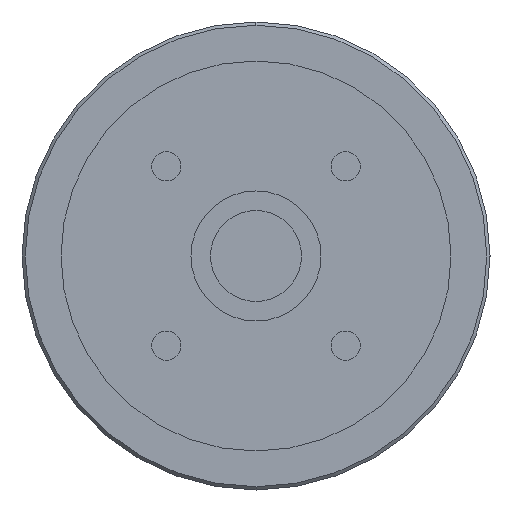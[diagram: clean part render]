
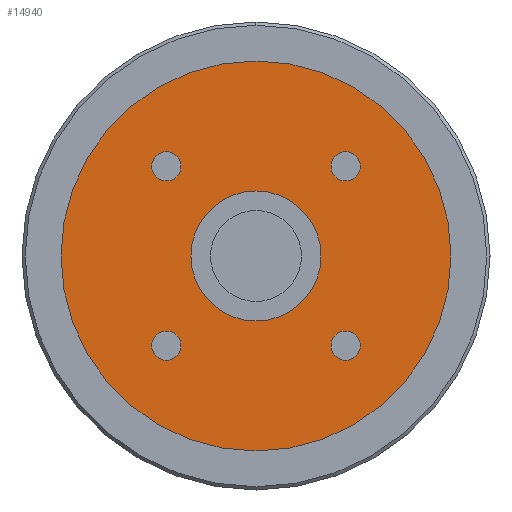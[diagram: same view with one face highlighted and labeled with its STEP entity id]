
A CAD part, left-side view. The second image highlights one B-rep face of the part: STEP entity #14940.
In plain terms, the highlighted planar face has unit normal (-1, 0, 0) as drawn and (0, 0, -1) by its records, which use the part's own axes.
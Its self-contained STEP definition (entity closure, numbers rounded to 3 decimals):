
#11890=CARTESIAN_POINT('',(0.,0.,
-91.));
#11900=DIRECTION('',(0.,0.,1.));
#11910=DIRECTION('',(0.,-1.,0.));
#11920=AXIS2_PLACEMENT_3D('',#11890,#11900,#11910);
#11930=CIRCLE('',#11920,10.);
#11940=CARTESIAN_POINT('',(0.,-10.,-91.));
#11950=VERTEX_POINT('',#11940);
#11960=CARTESIAN_POINT('',(10.,0.,-91.))
;
#11970=VERTEX_POINT('',#11960);
#11980=EDGE_CURVE('',#11950,#11970,#11930,.T.);
#12250=CARTESIAN_POINT('',(-10.,0.,-91.));
#12260=VERTEX_POINT('',#12250);
#12290=EDGE_CURVE('',#12260,#11950,#11930,.T.);
#12430=CARTESIAN_POINT('',(13.789,-11.539,-91.));
#12440=VERTEX_POINT('',#12430);
#12620=CARTESIAN_POINT('',(13.789,-16.039,-91.));
#12630=VERTEX_POINT('',#12620);
#12660=CARTESIAN_POINT('',(13.789,-13.789,-91.));
#12670=DIRECTION('',(0.,0.,-1.));
#12680=DIRECTION('',(1.,0.,0.));
#12690=AXIS2_PLACEMENT_3D('',#12660,#12670,#12680);
#12700=CIRCLE('',#12690,2.25);
#12710=CARTESIAN_POINT('',(16.039,-13.789,-91.));
#12720=VERTEX_POINT('',#12710);
#12730=EDGE_CURVE('',#12720,#12630,#12700,.T.);
#12750=EDGE_CURVE('',#12440,#12720,#12700,.T.);
#13870=CARTESIAN_POINT('',(30.,0.,-91.));
#13880=VERTEX_POINT('',#13870);
#13910=CARTESIAN_POINT('',(0.,0.,
-91.));
#13920=DIRECTION('',(0.,0.,1.));
#13930=DIRECTION('',(0.,-1.,0.));
#13940=AXIS2_PLACEMENT_3D('',#13910,#13920,#13930);
#13950=CIRCLE('',#13940,30.);
#13960=CARTESIAN_POINT('',(0.,-30.,-91.));
#13970=VERTEX_POINT('',#13960);
#13980=EDGE_CURVE('',#13970,#13880,#13950,.T.);
#14000=CARTESIAN_POINT('',(-30.,0.,-91.));
#14010=VERTEX_POINT('',#14000);
#14020=EDGE_CURVE('',#14010,#13970,#13950,.T.);
#14140=CARTESIAN_POINT('',(0.,0.,
-91.));
#14150=DIRECTION('',(0.,0.,1.));
#14160=DIRECTION('',(-1.,0.,0.));
#14170=AXIS2_PLACEMENT_3D('',#14140,#14150,#14160);
#14180=PLANE('',#14170);
#14190=CARTESIAN_POINT('',(13.789,13.789,-91.));
#14200=DIRECTION('',(0.,0.,-1.));
#14210=DIRECTION('',(0.,1.,0.));
#14220=AXIS2_PLACEMENT_3D('',#14190,#14200,#14210);
#14230=CIRCLE('',#14220,2.25);
#14240=CARTESIAN_POINT('',(13.789,16.039,-91.));
#14250=VERTEX_POINT('',#14240);
#14260=CARTESIAN_POINT('',(16.039,13.789,-91.));
#14270=VERTEX_POINT('',#14260);
#14280=EDGE_CURVE('',#14250,#14270,#14230,.T.);
#14290=ORIENTED_EDGE('',*,*,#14280,.F.);
#14300=CARTESIAN_POINT('',(11.539,13.789,-91.));
#14310=VERTEX_POINT('',#14300);
#14320=EDGE_CURVE('',#14270,#14310,#14230,.T.);
#14330=ORIENTED_EDGE('',*,*,#14320,.F.);
#14340=EDGE_CURVE('',#14310,#14250,#14230,.T.);
#14350=ORIENTED_EDGE('',*,*,#14340,.F.);
#14360=EDGE_LOOP('',(#14350,#14330,#14290));
#14370=FACE_BOUND('',#14360,.T.);
#14380=CARTESIAN_POINT('',(-13.789,13.789,-91.));
#14390=DIRECTION('',(0.,0.,-1.));
#14400=DIRECTION('',(-1.,0.,0.));
#14410=AXIS2_PLACEMENT_3D('',#14380,#14390,#14400);
#14420=CIRCLE('',#14410,2.25);
#14430=CARTESIAN_POINT('',(-16.039,13.789,-91.));
#14440=VERTEX_POINT('',#14430);
#14450=CARTESIAN_POINT('',(-13.789,16.039,-91.));
#14460=VERTEX_POINT('',#14450);
#14470=EDGE_CURVE('',#14440,#14460,#14420,.T.);
#14480=ORIENTED_EDGE('',*,*,#14470,.F.);
#14490=CARTESIAN_POINT('',(-13.789,11.539,-91.));
#14500=VERTEX_POINT('',#14490);
#14510=EDGE_CURVE('',#14460,#14500,#14420,.T.);
#14520=ORIENTED_EDGE('',*,*,#14510,.F.);
#14530=EDGE_CURVE('',#14500,#14440,#14420,.T.);
#14540=ORIENTED_EDGE('',*,*,#14530,.F.);
#14550=EDGE_LOOP('',(#14540,#14520,#14480));
#14560=FACE_BOUND('',#14550,.T.);
#14570=CARTESIAN_POINT('',(-13.789,-13.789,-91.));
#14580=DIRECTION('',(0.,0.,-1.));
#14590=DIRECTION('',(0.,-1.,0.));
#14600=AXIS2_PLACEMENT_3D('',#14570,#14580,#14590);
#14610=CIRCLE('',#14600,2.25);
#14620=CARTESIAN_POINT('',(-13.789,-16.039,-91.));
#14630=VERTEX_POINT('',#14620);
#14640=CARTESIAN_POINT('',(-16.039,-13.789,-91.));
#14650=VERTEX_POINT('',#14640);
#14660=EDGE_CURVE('',#14630,#14650,#14610,.T.);
#14670=ORIENTED_EDGE('',*,*,#14660,.F.);
#14680=CARTESIAN_POINT('',(-11.539,-13.789,-91.));
#14690=VERTEX_POINT('',#14680);
#14700=EDGE_CURVE('',#14650,#14690,#14610,.T.);
#14710=ORIENTED_EDGE('',*,*,#14700,.F.);
#14720=EDGE_CURVE('',#14690,#14630,#14610,.T.);
#14730=ORIENTED_EDGE('',*,*,#14720,.F.);
#14740=EDGE_LOOP('',(#14730,#14710,#14670));
#14750=FACE_BOUND('',#14740,.T.);
#14760=EDGE_CURVE('',#11970,#12260,#11930,.T.);
#14770=ORIENTED_EDGE('',*,*,#14760,.T.);
#14780=ORIENTED_EDGE('',*,*,#11980,.T.);
#14790=ORIENTED_EDGE('',*,*,#12290,.T.);
#14800=EDGE_LOOP('',(#14790,#14780,#14770));
#14810=FACE_BOUND('',#14800,.T.);
#14820=ORIENTED_EDGE('',*,*,#12730,.F.);
#14830=EDGE_CURVE('',#12630,#12440,#12700,.T.);
#14840=ORIENTED_EDGE('',*,*,#14830,.F.);
#14850=ORIENTED_EDGE('',*,*,#12750,.F.);
#14860=EDGE_LOOP('',(#14850,#14840,#14820));
#14870=FACE_BOUND('',#14860,.T.);
#14880=ORIENTED_EDGE('',*,*,#13980,.F.);
#14890=EDGE_CURVE('',#13880,#14010,#13950,.T.);
#14900=ORIENTED_EDGE('',*,*,#14890,.F.);
#14910=ORIENTED_EDGE('',*,*,#14020,.F.);
#14920=EDGE_LOOP('',(#14910,#14900,#14880));
#14930=FACE_OUTER_BOUND('',#14920,.T.);
#14940=ADVANCED_FACE('',(#14370,#14560,#14750,#14810,#14870,#14930),
#14180,.F.);
